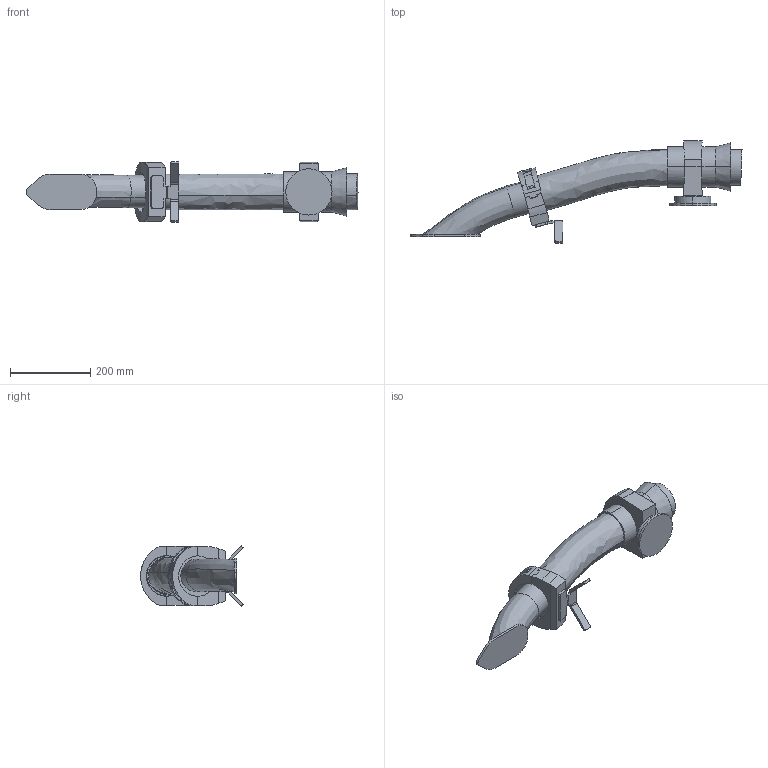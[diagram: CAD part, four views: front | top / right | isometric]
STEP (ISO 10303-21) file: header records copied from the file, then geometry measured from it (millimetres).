
FILE_DESCRIPTION (( 'STEP AP214' ), '1' );
FILE_NAME ('IRB5710-LID_90kg-230_OmniCore_rev00_LINK04_CABLE.step', '2025-07-07T14:15:00', ( '' ), ( '' ), 'SwSTEP 2.0', 'SolidWorks 2024', '' );
FILE_SCHEMA (( 'AUTOMOTIVE_DESIGN' ));
Length unit declared in the file: millimetre
Products named in the file (1): IRB5710-LID_90kg-230_OmniCore_rev00_LINK04_CABLE
Bounding box: 825.65 x 255.78 x 150.86 mm (x, y, z)
Volume: 5916183.9 mm3; surface area: 441889.8 mm2
Topology: 1 solids, 7 shells, 294 faces, 727 edges, 470 vertices
Faces by surface type: plane 154, cylinder 79, bspline 31, cone 26, sphere 4
Entity records: 16663 total; most frequent: CARTESIAN_POINT 9450, ORIENTED_EDGE 1454, DIRECTION 1376, EDGE_CURVE 727, AXIS2_PLACEMENT_3D 497, VERTEX_POINT 470, VECTOR 382, LINE 382
